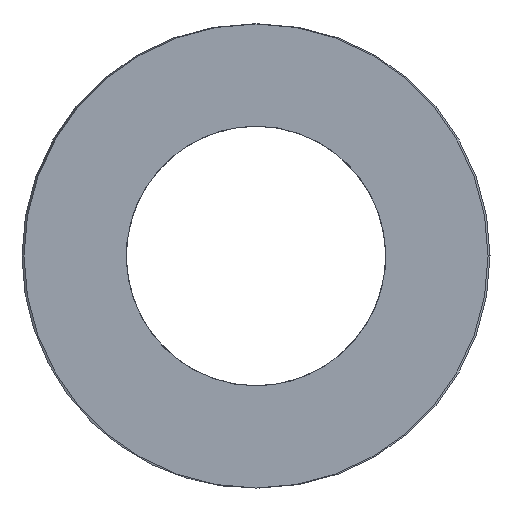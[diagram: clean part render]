
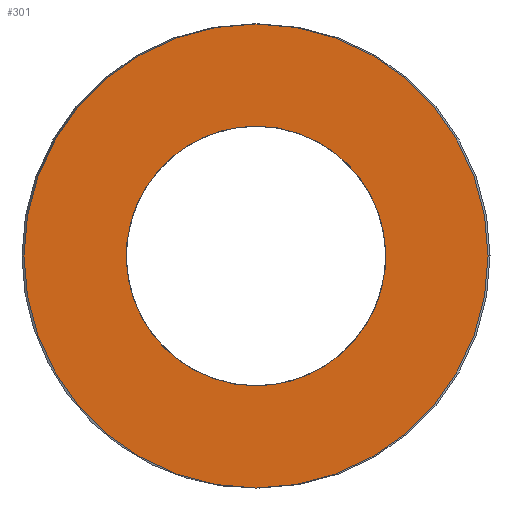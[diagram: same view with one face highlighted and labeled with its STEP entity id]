
A CAD part, left-side view. The second image highlights one B-rep face of the part: STEP entity #301.
In plain terms, the highlighted planar face has unit normal (-1, 0, 0).
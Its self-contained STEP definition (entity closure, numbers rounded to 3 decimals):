
#63=CARTESIAN_POINT('Vertex',(0.,12.25,0.)) ;
#77=CARTESIAN_POINT('Vertex',(0.,-12.25,0.)) ;
#80=CARTESIAN_POINT('Axis2P3D Location',(0.,0.,0.)) ;
#97=CARTESIAN_POINT('Axis2P3D Location',(0.,0.,0.)) ;
#232=CARTESIAN_POINT('Axis2P3D Location',(0.,6.125,0.)) ;
#242=CARTESIAN_POINT('Control Point',(0.,0.,-6.85)) ;
#243=CARTESIAN_POINT('Control Point',(0.,0.641,-6.85)) ;
#244=CARTESIAN_POINT('Control Point',(0.,1.282,-6.775)) ;
#245=CARTESIAN_POINT('Control Point',(0.,1.912,-6.625)) ;
#246=CARTESIAN_POINT('Control Point',(0.,3.124,-6.181)) ;
#247=CARTESIAN_POINT('Control Point',(0.,4.2,-5.468)) ;
#248=CARTESIAN_POINT('Control Point',(0.,4.694,-5.051)) ;
#249=CARTESIAN_POINT('Control Point',(0.,5.576,-4.107)) ;
#250=CARTESIAN_POINT('Control Point',(0.,6.215,-2.986)) ;
#251=CARTESIAN_POINT('Control Point',(0.,6.468,-2.39)) ;
#252=CARTESIAN_POINT('Control Point',(0.,6.829,-1.151)) ;
#253=CARTESIAN_POINT('Control Point',(0.,6.894,0.139)) ;
#254=CARTESIAN_POINT('Control Point',(0.,6.851,0.784)) ;
#255=CARTESIAN_POINT('Control Point',(0.,6.614,2.053)) ;
#256=CARTESIAN_POINT('Control Point',(0.,6.09,3.233)) ;
#257=CARTESIAN_POINT('Control Point',(0.,5.76,3.79)) ;
#258=CARTESIAN_POINT('Control Point',(0.,4.977,4.816)) ;
#259=CARTESIAN_POINT('Control Point',(0.,3.977,5.633)) ;
#260=CARTESIAN_POINT('Control Point',(0.,3.432,5.981)) ;
#261=CARTESIAN_POINT('Control Point',(0.,2.436,6.462)) ;
#262=CARTESIAN_POINT('Control Point',(0.,1.368,6.735)) ;
#263=CARTESIAN_POINT('Control Point',(0.,0.915,6.812)) ;
#264=CARTESIAN_POINT('Control Point',(0.,0.457,6.85)) ;
#265=CARTESIAN_POINT('Control Point',(0.,0.,6.85)) ;
#266=CARTESIAN_POINT('Vertex',(0.,0.,-6.85)) ;
#268=CARTESIAN_POINT('Vertex',(0.,0.,6.85)) ;
#272=CARTESIAN_POINT('Control Point',(0.,0.,6.85)) ;
#273=CARTESIAN_POINT('Control Point',(0.,-0.641,6.85)) ;
#274=CARTESIAN_POINT('Control Point',(0.,-1.282,6.775)) ;
#275=CARTESIAN_POINT('Control Point',(0.,-1.912,6.625)) ;
#276=CARTESIAN_POINT('Control Point',(0.,-3.124,6.181)) ;
#277=CARTESIAN_POINT('Control Point',(0.,-4.2,5.468)) ;
#278=CARTESIAN_POINT('Control Point',(0.,-4.694,5.051)) ;
#279=CARTESIAN_POINT('Control Point',(0.,-5.576,4.107)) ;
#280=CARTESIAN_POINT('Control Point',(0.,-6.215,2.986)) ;
#281=CARTESIAN_POINT('Control Point',(0.,-6.468,2.39)) ;
#282=CARTESIAN_POINT('Control Point',(0.,-6.829,1.151)) ;
#283=CARTESIAN_POINT('Control Point',(0.,-6.894,-0.139)) ;
#284=CARTESIAN_POINT('Control Point',(0.,-6.851,-0.784)) ;
#285=CARTESIAN_POINT('Control Point',(0.,-6.614,-2.053)) ;
#286=CARTESIAN_POINT('Control Point',(0.,-6.09,-3.233)) ;
#287=CARTESIAN_POINT('Control Point',(0.,-5.76,-3.79)) ;
#288=CARTESIAN_POINT('Control Point',(0.,-4.977,-4.816)) ;
#289=CARTESIAN_POINT('Control Point',(0.,-3.977,-5.633)) ;
#290=CARTESIAN_POINT('Control Point',(0.,-3.432,-5.981)) ;
#291=CARTESIAN_POINT('Control Point',(0.,-2.436,-6.462)) ;
#292=CARTESIAN_POINT('Control Point',(0.,-1.368,-6.735)) ;
#293=CARTESIAN_POINT('Control Point',(0.,-0.915,-6.812)) ;
#294=CARTESIAN_POINT('Control Point',(0.,-0.457,-6.85)) ;
#295=CARTESIAN_POINT('Control Point',(0.,0.,-6.85)) ;
#81=DIRECTION('Axis2P3D Direction',(1.,-0.,0.)) ;
#98=DIRECTION('Axis2P3D Direction',(1.,-0.,0.)) ;
#233=DIRECTION('Axis2P3D Direction',(-1.,0.,0.)) ;
#234=DIRECTION('Axis2P3D XDirection',(0.,1.,0.)) ;
#82=AXIS2_PLACEMENT_3D('Circle Axis2P3D',#80,#81,$) ;
#99=AXIS2_PLACEMENT_3D('Circle Axis2P3D',#97,#98,$) ;
#235=AXIS2_PLACEMENT_3D('Plane Axis2P3D',#232,#233,#234) ;
#238=ORIENTED_EDGE('',*,*,#84,.T.) ;
#239=ORIENTED_EDGE('',*,*,#101,.T.) ;
#298=ORIENTED_EDGE('',*,*,#270,.T.) ;
#299=ORIENTED_EDGE('',*,*,#296,.T.) ;
#300=FACE_BOUND('',#297,.T.) ;
#301=ADVANCED_FACE('392-B25-178',(#240,#300),#236,.T.) ;
#241=B_SPLINE_CURVE_WITH_KNOTS('',5,(#242,#243,#244,#245,#246,#247,#248,#249,#250,#251,#252,#253,#254,#255,#256,#257,#258,#259,#260,#261,#262,#263,#264,#265),.UNSPECIFIED.,.F.,.U.,(6,3,3,3,3,3,3,6),(0.,4.533,9.066,13.6,18.133,22.666,27.199,30.433),.UNSPECIFIED.) ;
#271=B_SPLINE_CURVE_WITH_KNOTS('',5,(#272,#273,#274,#275,#276,#277,#278,#279,#280,#281,#282,#283,#284,#285,#286,#287,#288,#289,#290,#291,#292,#293,#294,#295),.UNSPECIFIED.,.F.,.U.,(6,3,3,3,3,3,3,6),(0.,4.533,9.066,13.6,18.133,22.666,27.199,30.433),.UNSPECIFIED.) ;
#83=CIRCLE('generated circle',#82,12.25) ;
#100=CIRCLE('generated circle',#99,12.25) ;
#84=EDGE_CURVE('',#64,#78,#83,.F.) ;
#101=EDGE_CURVE('',#78,#64,#100,.F.) ;
#270=EDGE_CURVE('',#267,#269,#241,.T.) ;
#296=EDGE_CURVE('',#269,#267,#271,.T.) ;
#237=EDGE_LOOP('',(#238,#239)) ;
#297=EDGE_LOOP('',(#298,#299)) ;
#240=FACE_OUTER_BOUND('',#237,.T.) ;
#236=PLANE('Plane',#235) ;
#64=VERTEX_POINT('',#63) ;
#78=VERTEX_POINT('',#77) ;
#267=VERTEX_POINT('',#266) ;
#269=VERTEX_POINT('',#268) ;
